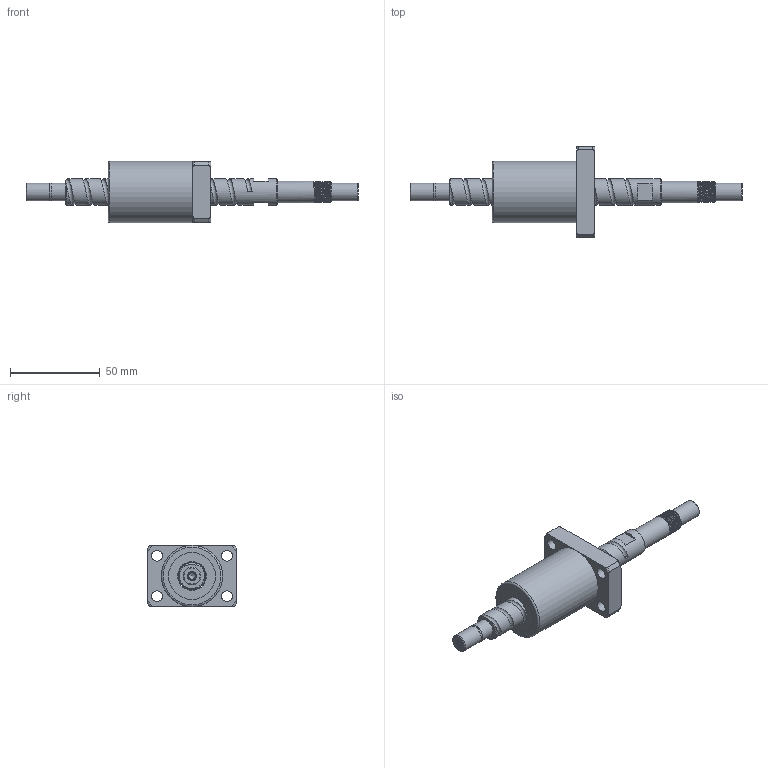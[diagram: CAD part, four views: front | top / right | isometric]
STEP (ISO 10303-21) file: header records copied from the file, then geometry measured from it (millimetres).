
FILE_DESCRIPTION (( 'STEP AP203' ), '1' );
FILE_NAME ('XSVR01510-00.stp.STEP', '2023-08-16T00:50:13', ( '' ), ( '' ), 'SwSTEP 2.0', 'SolidWorks 2022', '' );
FILE_SCHEMA (( 'CONFIG_CONTROL_DESIGN' ));
Length unit declared in the file: millimetre
Products named in the file (1): XSVR01510-00.stp
Bounding box: 184.59 x 50 x 34 mm (x, y, z)
Volume: 71732.4 mm3; surface area: 25122.4 mm2
Topology: 4 solids, 4 shells, 117 faces, 279 edges, 183 vertices
Faces by surface type: cylinder 63, plane 34, torus 9, cone 6, bspline 5
Full cylindrical faces by diameter (mm): 4 x15, 6 x4, 9.5 x4, 9.6 x1, 10 x3, 12 x9, 15 x10, 16 x3, 26 x4, 34 x1
Entity records: 12412 total; most frequent: CARTESIAN_POINT 10673, DIRECTION 339, ORIENTED_EDGE 288, AXIS2_PLACEMENT_3D 154, EDGE_CURVE 144, EDGE_LOOP 138, VERTEX_POINT 110, FACE_OUTER_BOUND 107
